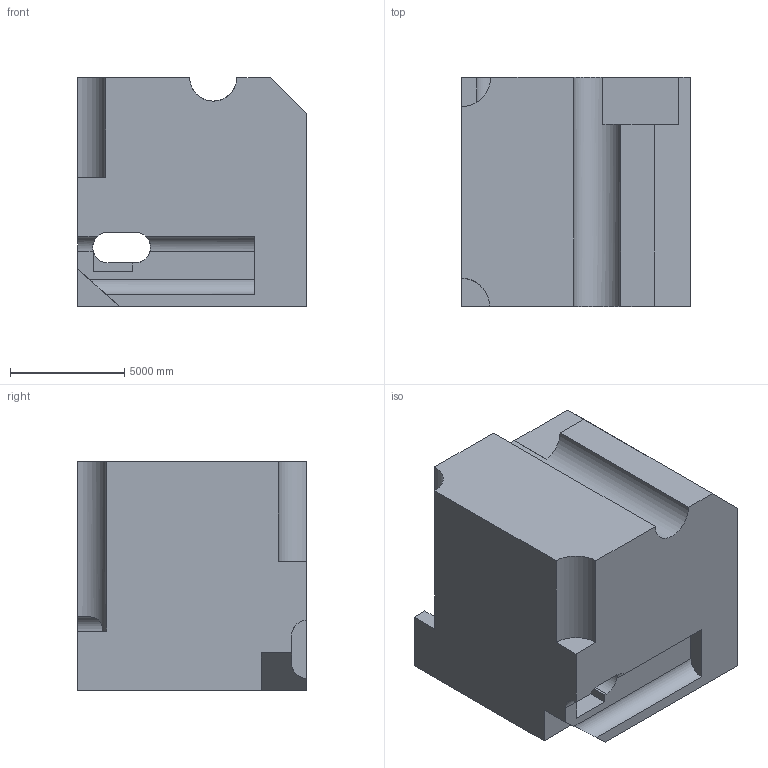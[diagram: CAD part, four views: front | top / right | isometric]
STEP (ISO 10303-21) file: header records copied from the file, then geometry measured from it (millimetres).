
FILE_DESCRIPTION (( 'STEP AP203' ), '1' );
FILE_NAME ('936.STEP', '2022-08-04T16:17:40', ( 'user' ), ( '' ), 'SwSTEP 2.0', 'SolidWorks 2021', '' );
FILE_SCHEMA (( 'CONFIG_CONTROL_DESIGN' ));
Length unit declared in the file: centimetre
Products named in the file (1): 936
Bounding box: 10000 x 10000 x 10000 mm (x, y, z)
Volume: 900701443674 mm3; surface area: 645821379.1 mm2
Topology: 1 solids, 1 shells, 36 faces, 108 edges, 72 vertices
Faces by surface type: plane 28, cylinder 8
Entity records: 1508 total; most frequent: CARTESIAN_POINT 443, ORIENTED_EDGE 216, DIRECTION 197, EDGE_CURVE 108, LINE 83, VECTOR 83, VERTEX_POINT 72, AXIS2_PLACEMENT_3D 57
